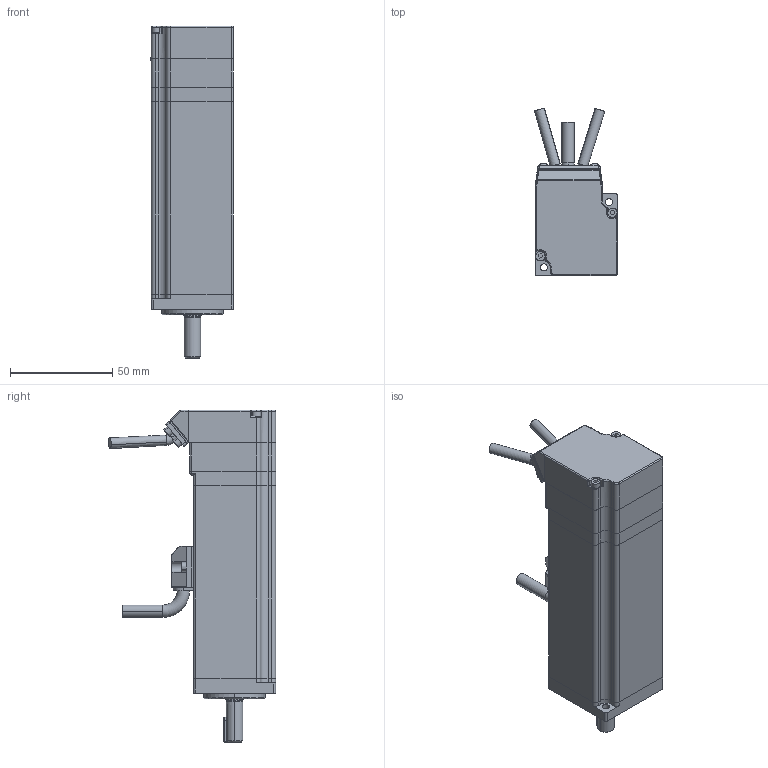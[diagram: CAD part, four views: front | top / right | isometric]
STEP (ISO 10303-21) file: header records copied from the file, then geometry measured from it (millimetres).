
FILE_DESCRIPTION (( 'STEP AP203' ), '1' );
FILE_NAME ('萇儂軞蚾-L40-BL-(E0+A2).STEP', '2021-10-26T07:33:13', ( '' ), ( '' ), 'SwSTEP 2.0', 'SolidWorks 2018', '' );
FILE_SCHEMA (( 'CONFIG_CONTROL_DESIGN' ));
Length unit declared in the file: millimetre
Products named in the file (1): 萇儂軞蚾-L40-BL-(E0+A2)
Bounding box: 40.41 x 81.56 x 162 mm (x, y, z)
Volume: 95284.8 mm3; surface area: 68115.2 mm2
Topology: 25 solids, 25 shells, 980 faces, 2392 edges, 1494 vertices
Faces by surface type: cylinder 438, plane 356, cone 118, torus 45, sphere 13, bspline 10
Entity records: 29365 total; most frequent: CARTESIAN_POINT 5523, DIRECTION 5298, ORIENTED_EDGE 4736, EDGE_CURVE 2368, AXIS2_PLACEMENT_3D 2031, VERTEX_POINT 1492, VECTOR 1236, LINE 1236
